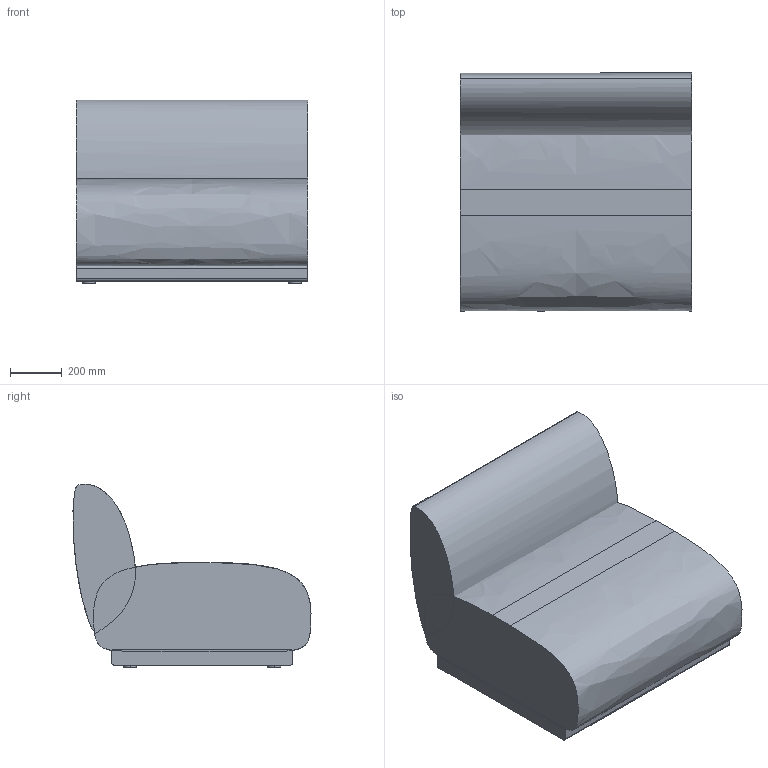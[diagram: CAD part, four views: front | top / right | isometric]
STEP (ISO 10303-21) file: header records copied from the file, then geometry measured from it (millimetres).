
FILE_DESCRIPTION(/* description */ (''),/* implementation_level */ '2;1');
FILE_NAME(/* name */ 'Rico modules Sofa_Center_3D',/* time_stamp */ '2025-07-25T14:46:27+02:00',/* author */ (''),/* organization */ (''),/* preprocessor_version */ 'ST-DEVELOPER v16.5',/* originating_system */ 'Rhino 7.38',/* authorisation */ '');
FILE_SCHEMA (('CONFIG_CONTROL_DESIGN'));
Length unit declared in the file: millimetre
Products named in the file (1): Document
Bounding box: 900.01 x 924.29 x 713.25 mm (x, y, z)
Volume: 371269312 mm3; surface area: 5333844.9 mm2
Topology: 7 solids, 7 shells, 36 faces, 66 edges, 44 vertices
Faces by surface type: plane 20, cylinder 12, bspline 4
Entity records: 1300 total; most frequent: CARTESIAN_POINT 712, ORIENTED_EDGE 132, EDGE_CURVE 66, VERTEX_POINT 44, ADVANCED_FACE 36, FACE_OUTER_BOUND 36, EDGE_LOOP 36, DIRECTION 36
